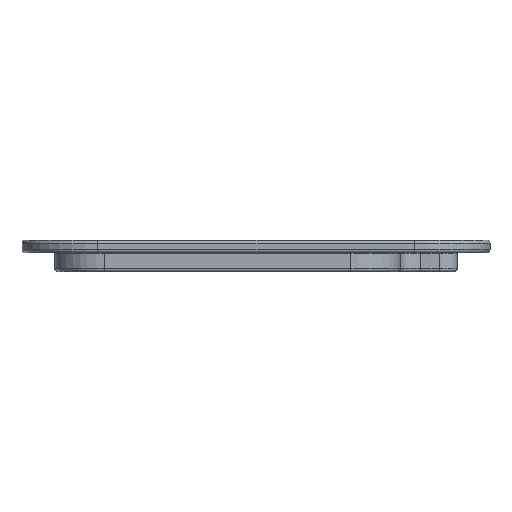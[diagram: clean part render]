
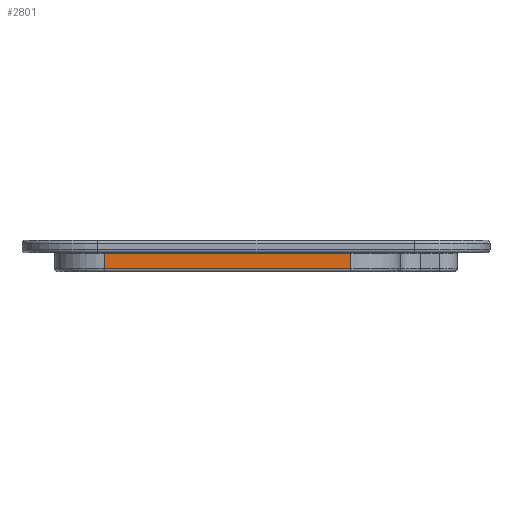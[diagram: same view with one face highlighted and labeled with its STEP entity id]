
A CAD part, left-side view. The second image highlights one B-rep face of the part: STEP entity #2801.
In plain terms, the highlighted planar face has unit normal (-1, 0, 0).
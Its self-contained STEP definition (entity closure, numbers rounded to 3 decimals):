
#469 = CYLINDRICAL_SURFACE('',#470,0.1);
#470 = AXIS2_PLACEMENT_3D('',#471,#472,#473);
#471 = CARTESIAN_POINT('',(16.1,191.,51.2));
#472 = DIRECTION('',(0.,1.,0.));
#473 = DIRECTION('',(0.,0.,1.));
#1604 = VERTEX_POINT('',#1605);
#1605 = CARTESIAN_POINT('',(16.2,230.,51.2));
#1644 = CYLINDRICAL_SURFACE('',#1645,7.8);
#1645 = AXIS2_PLACEMENT_3D('',#1646,#1647,#1648);
#1646 = CARTESIAN_POINT('',(24.,230.,51.3));
#1647 = DIRECTION('',(0.,0.,1.));
#1648 = DIRECTION('',(1.,0.,0.));
#1662 = VERTEX_POINT('',#1663);
#1663 = CARTESIAN_POINT('',(16.2,191.,51.2));
#1700 = CYLINDRICAL_SURFACE('',#1701,7.8);
#1701 = AXIS2_PLACEMENT_3D('',#1702,#1703,#1704);
#1702 = CARTESIAN_POINT('',(24.,191.,51.3));
#1703 = DIRECTION('',(0.,0.,1.));
#1704 = DIRECTION('',(1.,0.,0.));
#1716 = EDGE_CURVE('',#1662,#1604,#1717,.T.);
#1717 = SURFACE_CURVE('',#1718,(#1722,#1729),.PCURVE_S1.);
#1718 = LINE('',#1719,#1720);
#1719 = CARTESIAN_POINT('',(16.2,191.,51.2));
#1720 = VECTOR('',#1721,1.);
#1721 = DIRECTION('',(0.,1.,0.));
#1722 = PCURVE('',#469,#1723);
#1723 = DEFINITIONAL_REPRESENTATION('',(#1724),#1728);
#1724 = LINE('',#1725,#1726);
#1725 = CARTESIAN_POINT('',(1.571,0.));
#1726 = VECTOR('',#1727,1.);
#1727 = DIRECTION('',(0.,1.));
#1728 = ( GEOMETRIC_REPRESENTATION_CONTEXT(2) 
PARAMETRIC_REPRESENTATION_CONTEXT() REPRESENTATION_CONTEXT('2D SPACE',''
  ) );
#1729 = PCURVE('',#1730,#1735);
#1730 = PLANE('',#1731);
#1731 = AXIS2_PLACEMENT_3D('',#1732,#1733,#1734);
#1732 = CARTESIAN_POINT('',(16.2,191.,51.3));
#1733 = DIRECTION('',(1.,0.,0.));
#1734 = DIRECTION('',(0.,1.,0.));
#1735 = DEFINITIONAL_REPRESENTATION('',(#1736),#1740);
#1736 = LINE('',#1737,#1738);
#1737 = CARTESIAN_POINT('',(0.,-0.1));
#1738 = VECTOR('',#1739,1.);
#1739 = DIRECTION('',(1.,0.));
#1740 = ( GEOMETRIC_REPRESENTATION_CONTEXT(2) 
PARAMETRIC_REPRESENTATION_CONTEXT() REPRESENTATION_CONTEXT('2D SPACE',''
  ) );
#2697 = VERTEX_POINT('',#2698);
#2698 = CARTESIAN_POINT('',(16.2,230.,48.8));
#2725 = EDGE_CURVE('',#1604,#2697,#2726,.T.);
#2726 = SURFACE_CURVE('',#2727,(#2731,#2738),.PCURVE_S1.);
#2727 = LINE('',#2728,#2729);
#2728 = CARTESIAN_POINT('',(16.2,230.,51.3));
#2729 = VECTOR('',#2730,1.);
#2730 = DIRECTION('',(-0.,-0.,-1.));
#2731 = PCURVE('',#1644,#2732);
#2732 = DEFINITIONAL_REPRESENTATION('',(#2733),#2737);
#2733 = LINE('',#2734,#2735);
#2734 = CARTESIAN_POINT('',(3.142,0.));
#2735 = VECTOR('',#2736,1.);
#2736 = DIRECTION('',(0.,-1.));
#2737 = ( GEOMETRIC_REPRESENTATION_CONTEXT(2) 
PARAMETRIC_REPRESENTATION_CONTEXT() REPRESENTATION_CONTEXT('2D SPACE',''
  ) );
#2738 = PCURVE('',#1730,#2739);
#2739 = DEFINITIONAL_REPRESENTATION('',(#2740),#2744);
#2740 = LINE('',#2741,#2742);
#2741 = CARTESIAN_POINT('',(39.,0.));
#2742 = VECTOR('',#2743,1.);
#2743 = DIRECTION('',(0.,-1.));
#2744 = ( GEOMETRIC_REPRESENTATION_CONTEXT(2) 
PARAMETRIC_REPRESENTATION_CONTEXT() REPRESENTATION_CONTEXT('2D SPACE',''
  ) );
#2750 = EDGE_CURVE('',#1662,#2751,#2753,.T.);
#2751 = VERTEX_POINT('',#2752);
#2752 = CARTESIAN_POINT('',(16.2,191.,48.8));
#2753 = SURFACE_CURVE('',#2754,(#2758,#2765),.PCURVE_S1.);
#2754 = LINE('',#2755,#2756);
#2755 = CARTESIAN_POINT('',(16.2,191.,51.3));
#2756 = VECTOR('',#2757,1.);
#2757 = DIRECTION('',(-0.,-0.,-1.));
#2758 = PCURVE('',#1700,#2759);
#2759 = DEFINITIONAL_REPRESENTATION('',(#2760),#2764);
#2760 = LINE('',#2761,#2762);
#2761 = CARTESIAN_POINT('',(3.142,0.));
#2762 = VECTOR('',#2763,1.);
#2763 = DIRECTION('',(0.,-1.));
#2764 = ( GEOMETRIC_REPRESENTATION_CONTEXT(2) 
PARAMETRIC_REPRESENTATION_CONTEXT() REPRESENTATION_CONTEXT('2D SPACE',''
  ) );
#2765 = PCURVE('',#1730,#2766);
#2766 = DEFINITIONAL_REPRESENTATION('',(#2767),#2771);
#2767 = LINE('',#2768,#2769);
#2768 = CARTESIAN_POINT('',(0.,0.));
#2769 = VECTOR('',#2770,1.);
#2770 = DIRECTION('',(0.,-1.));
#2771 = ( GEOMETRIC_REPRESENTATION_CONTEXT(2) 
PARAMETRIC_REPRESENTATION_CONTEXT() REPRESENTATION_CONTEXT('2D SPACE',''
  ) );
#2801 = ADVANCED_FACE('',(#2802),#1730,.F.);
#2802 = FACE_BOUND('',#2803,.F.);
#2803 = EDGE_LOOP('',(#2804,#2805,#2831,#2832));
#2804 = ORIENTED_EDGE('',*,*,#2750,.T.);
#2805 = ORIENTED_EDGE('',*,*,#2806,.T.);
#2806 = EDGE_CURVE('',#2751,#2697,#2807,.T.);
#2807 = SURFACE_CURVE('',#2808,(#2812,#2819),.PCURVE_S1.);
#2808 = LINE('',#2809,#2810);
#2809 = CARTESIAN_POINT('',(16.2,191.,48.8));
#2810 = VECTOR('',#2811,1.);
#2811 = DIRECTION('',(0.,1.,0.));
#2812 = PCURVE('',#1730,#2813);
#2813 = DEFINITIONAL_REPRESENTATION('',(#2814),#2818);
#2814 = LINE('',#2815,#2816);
#2815 = CARTESIAN_POINT('',(0.,-2.5));
#2816 = VECTOR('',#2817,1.);
#2817 = DIRECTION('',(1.,0.));
#2818 = ( GEOMETRIC_REPRESENTATION_CONTEXT(2) 
PARAMETRIC_REPRESENTATION_CONTEXT() REPRESENTATION_CONTEXT('2D SPACE',''
  ) );
#2819 = PCURVE('',#2820,#2825);
#2820 = CYLINDRICAL_SURFACE('',#2821,0.5);
#2821 = AXIS2_PLACEMENT_3D('',#2822,#2823,#2824);
#2822 = CARTESIAN_POINT('',(16.7,191.,48.8));
#2823 = DIRECTION('',(0.,1.,0.));
#2824 = DIRECTION('',(-1.,0.,0.));
#2825 = DEFINITIONAL_REPRESENTATION('',(#2826),#2830);
#2826 = LINE('',#2827,#2828);
#2827 = CARTESIAN_POINT('',(-0.,0.));
#2828 = VECTOR('',#2829,1.);
#2829 = DIRECTION('',(-0.,1.));
#2830 = ( GEOMETRIC_REPRESENTATION_CONTEXT(2) 
PARAMETRIC_REPRESENTATION_CONTEXT() REPRESENTATION_CONTEXT('2D SPACE',''
  ) );
#2831 = ORIENTED_EDGE('',*,*,#2725,.F.);
#2832 = ORIENTED_EDGE('',*,*,#1716,.F.);
